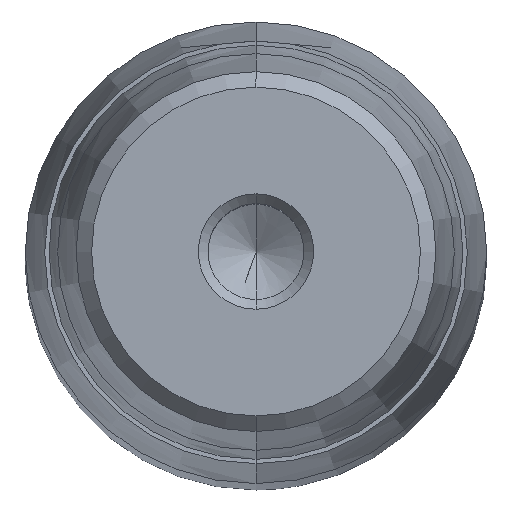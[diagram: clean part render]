
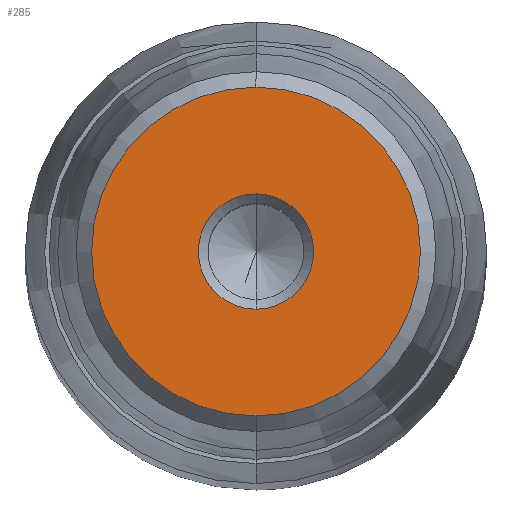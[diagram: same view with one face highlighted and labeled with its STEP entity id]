
A CAD part, top view. The second image highlights one B-rep face of the part: STEP entity #285.
In plain terms, the highlighted planar face has unit normal (0, 0, 1).
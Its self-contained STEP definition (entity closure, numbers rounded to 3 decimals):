
#164=CARTESIAN_POINT('Axis2P3D Location',(0.,0.,48.)) ;
#168=CARTESIAN_POINT('Vertex',(4.,0.,48.)) ;
#170=CARTESIAN_POINT('Vertex',(0.,-4.,48.)) ;
#173=CARTESIAN_POINT('Axis2P3D Location',(0.,0.,48.)) ;
#177=CARTESIAN_POINT('Vertex',(0.,4.,48.)) ;
#228=CARTESIAN_POINT('Axis2P3D Location',(0.,4.,48.)) ;
#233=CARTESIAN_POINT('Axis2P3D Location',(0.,0.,48.)) ;
#237=CARTESIAN_POINT('Vertex',(0.,11.4,48.)) ;
#239=CARTESIAN_POINT('Vertex',(11.4,0.,48.)) ;
#242=CARTESIAN_POINT('Axis2P3D Location',(0.,0.,48.)) ;
#246=CARTESIAN_POINT('Vertex',(-11.4,0.,48.)) ;
#249=CARTESIAN_POINT('Axis2P3D Location',(0.,0.,48.)) ;
#253=CARTESIAN_POINT('Vertex',(0.,-11.4,48.)) ;
#256=CARTESIAN_POINT('Axis2P3D Location',(0.,0.,48.)) ;
#267=CARTESIAN_POINT('Axis2P3D Location',(0.,0.,48.)) ;
#271=CARTESIAN_POINT('Vertex',(-4.,0.,48.)) ;
#274=CARTESIAN_POINT('Axis2P3D Location',(0.,0.,48.)) ;
#165=DIRECTION('Axis2P3D Direction',(-0.,0.,1.)) ;
#174=DIRECTION('Axis2P3D Direction',(-0.,0.,1.)) ;
#229=DIRECTION('Axis2P3D Direction',(0.,0.,-1.)) ;
#230=DIRECTION('Axis2P3D XDirection',(0.,1.,0.)) ;
#234=DIRECTION('Axis2P3D Direction',(0.,0.,-1.)) ;
#243=DIRECTION('Axis2P3D Direction',(0.,0.,-1.)) ;
#250=DIRECTION('Axis2P3D Direction',(0.,0.,-1.)) ;
#257=DIRECTION('Axis2P3D Direction',(0.,0.,-1.)) ;
#268=DIRECTION('Axis2P3D Direction',(0.,0.,-1.)) ;
#275=DIRECTION('Axis2P3D Direction',(0.,0.,-1.)) ;
#166=AXIS2_PLACEMENT_3D('Circle Axis2P3D',#164,#165,$) ;
#175=AXIS2_PLACEMENT_3D('Circle Axis2P3D',#173,#174,$) ;
#231=AXIS2_PLACEMENT_3D('Plane Axis2P3D',#228,#229,#230) ;
#235=AXIS2_PLACEMENT_3D('Circle Axis2P3D',#233,#234,$) ;
#244=AXIS2_PLACEMENT_3D('Circle Axis2P3D',#242,#243,$) ;
#251=AXIS2_PLACEMENT_3D('Circle Axis2P3D',#249,#250,$) ;
#258=AXIS2_PLACEMENT_3D('Circle Axis2P3D',#256,#257,$) ;
#269=AXIS2_PLACEMENT_3D('Circle Axis2P3D',#267,#268,$) ;
#276=AXIS2_PLACEMENT_3D('Circle Axis2P3D',#274,#275,$) ;
#262=ORIENTED_EDGE('',*,*,#241,.F.) ;
#263=ORIENTED_EDGE('',*,*,#248,.F.) ;
#264=ORIENTED_EDGE('',*,*,#255,.F.) ;
#265=ORIENTED_EDGE('',*,*,#260,.F.) ;
#280=ORIENTED_EDGE('',*,*,#172,.T.) ;
#281=ORIENTED_EDGE('',*,*,#273,.T.) ;
#282=ORIENTED_EDGE('',*,*,#278,.T.) ;
#283=ORIENTED_EDGE('',*,*,#179,.T.) ;
#284=FACE_BOUND('',#279,.T.) ;
#285=ADVANCED_FACE('722-32x280x313',(#266,#284),#232,.F.) ;
#167=CIRCLE('generated circle',#166,4.) ;
#176=CIRCLE('generated circle',#175,4.) ;
#236=CIRCLE('generated circle',#235,11.4) ;
#245=CIRCLE('generated circle',#244,11.4) ;
#252=CIRCLE('generated circle',#251,11.4) ;
#259=CIRCLE('generated circle',#258,11.4) ;
#270=CIRCLE('generated circle',#269,4.) ;
#277=CIRCLE('generated circle',#276,4.) ;
#172=EDGE_CURVE('',#169,#171,#167,.F.) ;
#179=EDGE_CURVE('',#178,#169,#176,.F.) ;
#241=EDGE_CURVE('',#238,#240,#236,.T.) ;
#248=EDGE_CURVE('',#247,#238,#245,.T.) ;
#255=EDGE_CURVE('',#254,#247,#252,.T.) ;
#260=EDGE_CURVE('',#240,#254,#259,.T.) ;
#273=EDGE_CURVE('',#171,#272,#270,.T.) ;
#278=EDGE_CURVE('',#272,#178,#277,.T.) ;
#261=EDGE_LOOP('',(#262,#263,#264,#265)) ;
#279=EDGE_LOOP('',(#280,#281,#282,#283)) ;
#266=FACE_OUTER_BOUND('',#261,.T.) ;
#232=PLANE('Plane',#231) ;
#169=VERTEX_POINT('',#168) ;
#171=VERTEX_POINT('',#170) ;
#178=VERTEX_POINT('',#177) ;
#238=VERTEX_POINT('',#237) ;
#240=VERTEX_POINT('',#239) ;
#247=VERTEX_POINT('',#246) ;
#254=VERTEX_POINT('',#253) ;
#272=VERTEX_POINT('',#271) ;
